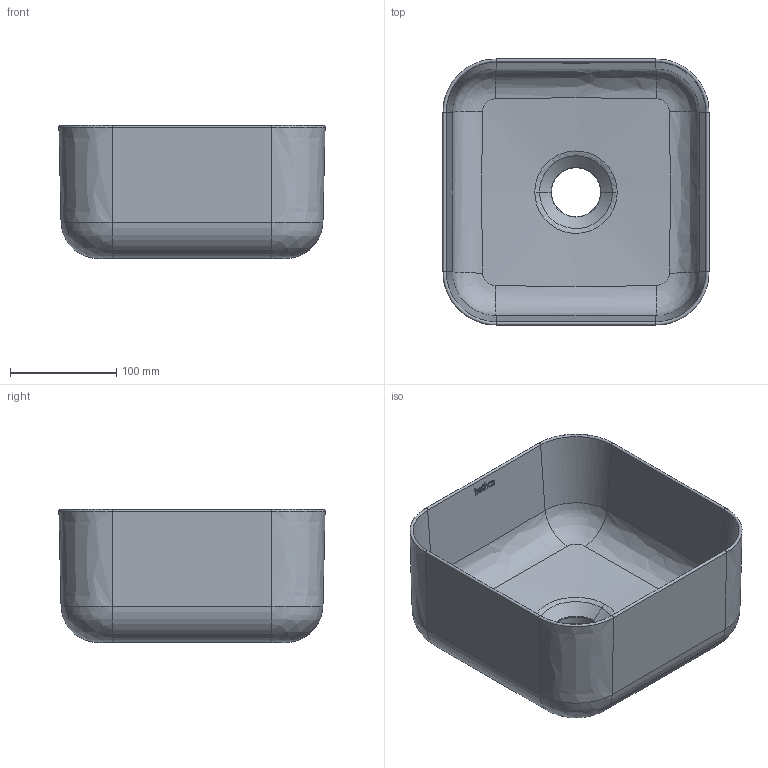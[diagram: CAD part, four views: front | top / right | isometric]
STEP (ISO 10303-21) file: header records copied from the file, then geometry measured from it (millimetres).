
FILE_DESCRIPTION(/* description */ (''),/* implementation_level */ '2;1');
FILE_NAME(/* name */ '4917_4919_4920_CUBE 25',/* time_stamp */ '2025-04-01T12:21:10+02:00',/* author */ (''),/* organization */ (''),/* preprocessor_version */ 'ST-DEVELOPER v19.2',/* originating_system */ 'Rhino 8.17',/* authorisation */ '');
FILE_SCHEMA (('CONFIG_CONTROL_DESIGN'));
Length unit declared in the file: millimetre
Products named in the file (1): Document
Bounding box: 250 x 250 x 125 mm (x, y, z)
Volume: 1700309 mm3; surface area: 287869.6 mm2
Topology: 7 solids, 7 shells, 120 faces, 278 edges, 172 vertices
Faces by surface type: plane 59, bspline 55, cylinder 6
Entity records: 5987 total; most frequent: CARTESIAN_POINT 3948, ORIENTED_EDGE 556, EDGE_CURVE 278, B_SPLINE_CURVE_WITH_KNOTS 184, VERTEX_POINT 172, DIRECTION 131, EDGE_LOOP 128, ADVANCED_FACE 120
